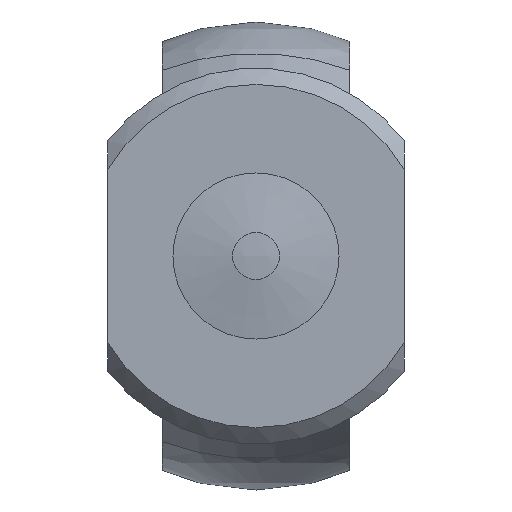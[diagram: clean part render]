
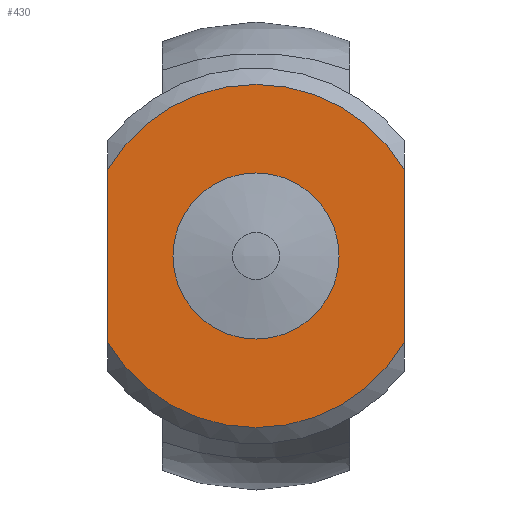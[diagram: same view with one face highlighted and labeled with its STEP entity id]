
A CAD part, front view. The second image highlights one B-rep face of the part: STEP entity #430.
In plain terms, the highlighted planar face has unit normal (0, -1, 0).
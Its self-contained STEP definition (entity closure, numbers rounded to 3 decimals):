
#60=CIRCLE('',#474,11.);
#65=CIRCLE('',#488,11.);
#66=CIRCLE('',#490,5.323);
#139=ORIENTED_EDGE('',*,*,#230,.T.);
#140=ORIENTED_EDGE('',*,*,#229,.F.);
#141=ORIENTED_EDGE('',*,*,#220,.T.);
#142=ORIENTED_EDGE('',*,*,#212,.F.);
#143=ORIENTED_EDGE('',*,*,#231,.T.);
#212=EDGE_CURVE('',#261,#262,#60,.T.);
#220=EDGE_CURVE('',#266,#262,#296,.T.);
#229=EDGE_CURVE('',#266,#271,#65,.T.);
#230=EDGE_CURVE('',#261,#271,#299,.T.);
#231=EDGE_CURVE('',#272,#272,#66,.T.);
#261=VERTEX_POINT('',#718);
#262=VERTEX_POINT('',#720);
#266=VERTEX_POINT('',#738);
#271=VERTEX_POINT('',#762);
#272=VERTEX_POINT('',#767);
#296=LINE('',#737,#314);
#299=LINE('',#765,#317);
#314=VECTOR('',#580,1000.);
#317=VECTOR('',#597,1000.);
#335=EDGE_LOOP('',(#139,#140,#141,#142));
#336=EDGE_LOOP('',(#143));
#379=FACE_BOUND('',#335,.T.);
#380=FACE_BOUND('',#336,.T.);
#412=PLANE('',#489);
#430=ADVANCED_FACE('',(#379,#380),#412,.T.);
#474=AXIS2_PLACEMENT_3D('',#719,#560,#561);
#488=AXIS2_PLACEMENT_3D('',#763,#593,#594);
#489=AXIS2_PLACEMENT_3D('',#764,#595,#596);
#490=AXIS2_PLACEMENT_3D('',#766,#598,#599);
#560=DIRECTION('',(0.,1.,0.));
#561=DIRECTION('',(1.,0.,0.));
#580=DIRECTION('',(0.,0.,1.));
#593=DIRECTION('',(0.,1.,0.));
#594=DIRECTION('',(1.,0.,0.));
#595=DIRECTION('',(0.,-1.,0.));
#596=DIRECTION('',(-1.,0.,0.));
#597=DIRECTION('',(0.,0.,-1.));
#598=DIRECTION('',(0.,1.,0.));
#599=DIRECTION('',(1.,0.,0.));
#718=CARTESIAN_POINT('',(-9.5,-50.,5.545));
#719=CARTESIAN_POINT('',(0.,-50.,0.));
#720=CARTESIAN_POINT('',(9.5,-50.,5.545));
#737=CARTESIAN_POINT('',(9.5,-50.,0.));
#738=CARTESIAN_POINT('',(9.5,-50.,-5.545));
#762=CARTESIAN_POINT('',(-9.5,-50.,-5.545));
#763=CARTESIAN_POINT('',(0.,-50.,0.));
#764=CARTESIAN_POINT('',(5.5,-50.,0.));
#765=CARTESIAN_POINT('',(-9.5,-50.,0.));
#766=CARTESIAN_POINT('',(0.,-50.,0.));
#767=CARTESIAN_POINT('',(5.323,-50.,0.));
